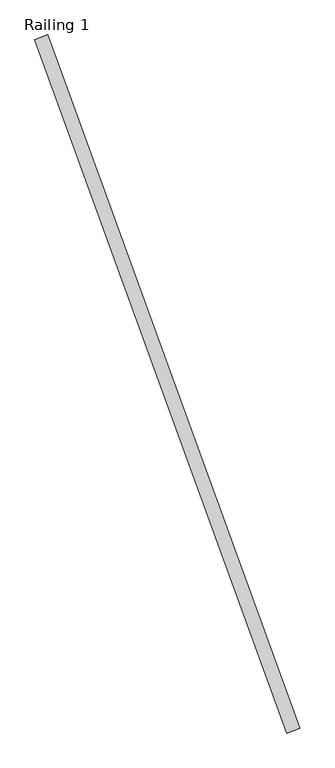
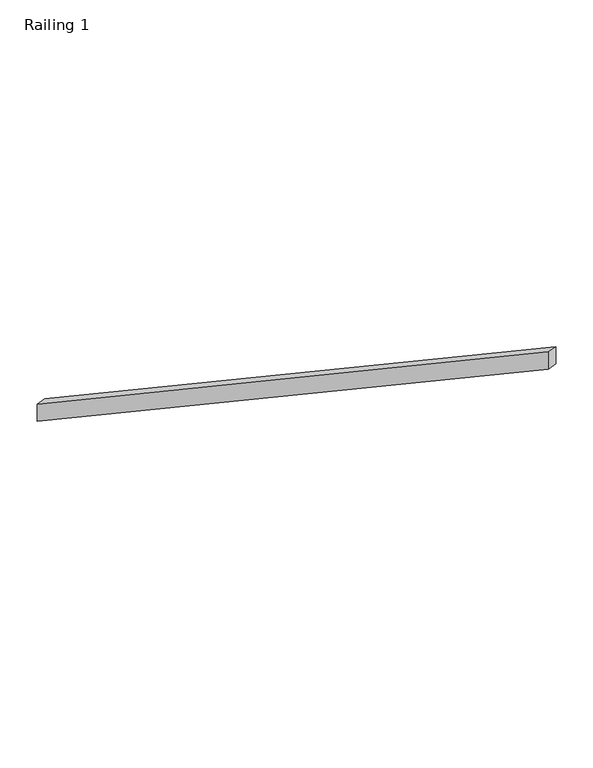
"""IFC4 building model written with IfcOpenShell, lengths in millimetres: railing geometry, Railing 1."""

from ifc_helpers import new_model, si_unit, frame, origin, place, context, project, spatial, polyline, outline, extrude, source, transform, mapped, element, save


def railing_1_7276ef65(model_context):
    return source(origin(), model_context, "Body", "SweptSolid", [
        extrude(outline(polyline([(41.5636364, -76.2), (0.0, 0.0), (3132.4910216, 0.0), (3174.0546579, -76.2), (41.5636364, -76.2)])), frame((20032.689937, 27586.6778863, 7049.5651579), z_axis=(0.9396926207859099, 0.3420201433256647, 0.0), x_axis=(0.30025796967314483, -0.8249519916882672, 0.4788521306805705)), (0.0, 0.0, 1.0), 50.8),
    ])


if __name__ == "__main__":
    model = new_model("IFC4")
    model_context = context("Model", 3, world=origin())
    ifc_project = project(units=[si_unit("LENGTHUNIT", "METRE", prefix="MILLI")], contexts=[model_context])
    site = spatial("IfcSite", under=ifc_project)
    building = spatial("IfcBuilding", under=site)
    placement = place(None, origin())
    railing_1_shape = railing_1_7276ef65(model_context)
    element("IfcRailing", 1, ObjectType="Railing 1", at=placement, inside=building, context=model_context, shape_type="MappedRepresentation", body=[
        mapped(railing_1_shape, transform((0.0, 0.0, 0.0), x_axis=(1.0, 0.0, 0.0), y_axis=(0.0, 1.0, 0.0), z_axis=(0.0, 0.0, 1.0))),
    ])
    save(model, "model.ifc")
